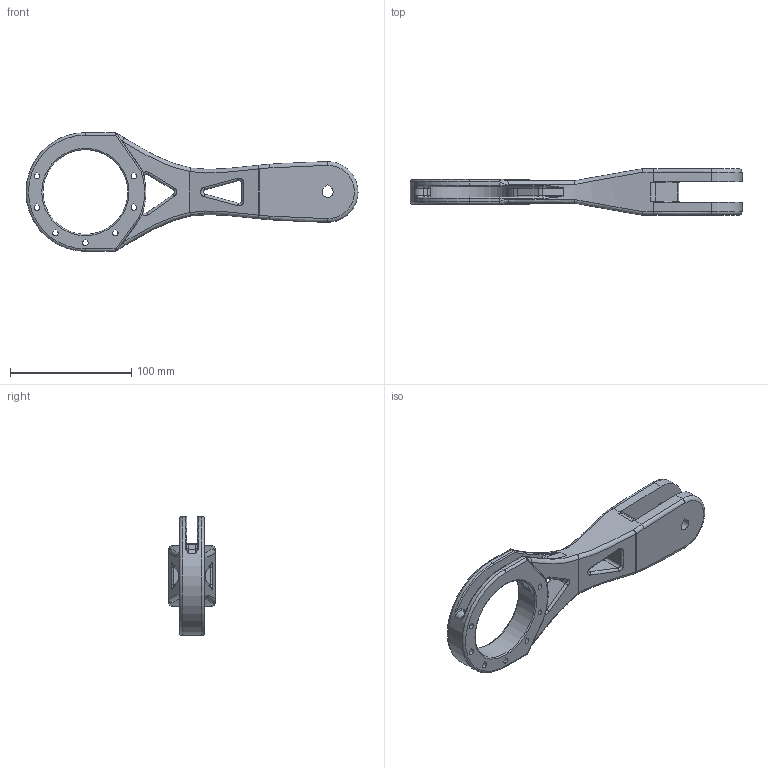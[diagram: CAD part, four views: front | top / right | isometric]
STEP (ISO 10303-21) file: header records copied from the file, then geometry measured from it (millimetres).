
FILE_DESCRIPTION(/* description */ ('STEP AP242 Edition 2','CAx-IF Rec.Pracs.---Representation and Presentation of Product Manufacturing Information (PMI)---4.0---2014-10-13','CAx-IF Rec.Pracs.---3D Tessellated Geometry---0.4---2014-09-14','2;1','CAx-IF Rec.Pracs.---User Defined Attributes---1.5---2016-08-15'),/* implementation_level */ '2;1');
FILE_NAME(/* name */ 'Tarok - Total Assemply - Upper Leg',/* time_stamp */ '2026-05-23T09:32:38Z',/* author */ (''),/* organization */ (''),/* preprocessor_version */ 'ST-DEVELOPER v20',/* originating_system */ 'ONSHAPE BY PTC INC, 1.215',/* authorisation */ ' ');
FILE_SCHEMA (('AP242_MANAGED_MODEL_BASED_3D_ENGINEERING_MIM_LF { 1 0 10303 442 3 1 4 }'));
Length unit declared in the file: metre
Products named in the file (1): Upper Leg
Bounding box: 274 x 38.5 x 98 mm (x, y, z)
Volume: 244583.6 mm3; surface area: 55082.5 mm2
Topology: 1 solids, 1 shells, 199 faces, 528 edges, 318 vertices
Faces by surface type: cylinder 69, plane 46, bspline 45, torus 35, sphere 4
Full cylindrical faces by diameter (mm): 16 x2, 70 x1
Entity records: 6988 total; most frequent: CARTESIAN_POINT 2409, ORIENTED_EDGE 1008, DIRECTION 871, EDGE_CURVE 504, AXIS2_PLACEMENT_3D 343, VERTEX_POINT 313, EDGE_LOOP 233, FACE_BOUND 233
